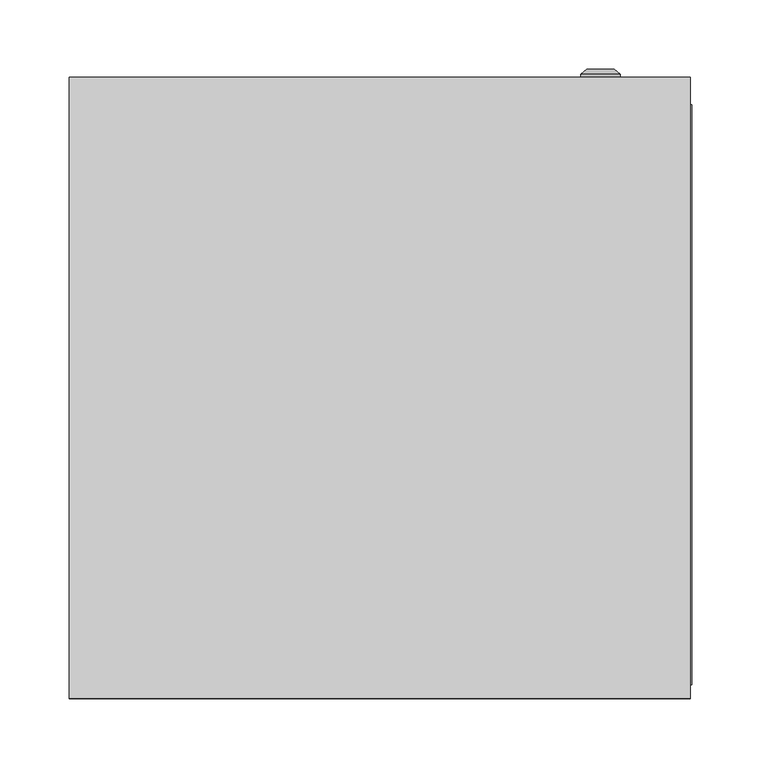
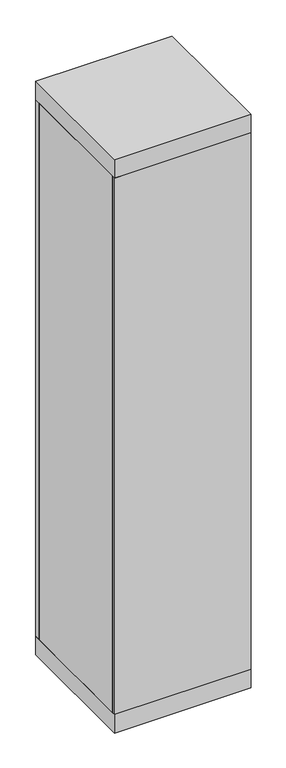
"""IFC4 building model written with IfcOpenShell, lengths in millimetres: proxy geometry, ВРУ-1_IP54 : ВРУ-1_2000х450х450."""

from ifc_helpers import new_model, si_unit, frame, origin, origin_with_axes, place, context, project, spatial, polyline, circle_curve, outline, extrude, source, transform, mapped, element, save
from ifc_brep_helpers import plane_surface, cylinder_surface, revolved_surface, advanced_brep


def electrical_equipment_97246e37(model_context):
    return source(origin(), model_context, "Body", "SolidModel", [
        extrude(outline(polyline([(225.0, 0.0), (-225.0, 0.0), (-225.0, 10.0), (225.0, 10.0), (225.0, 0.0)])), frame((0.0, 0.0, 65.0187804), z_axis=(0.0, 0.0, 1.0), x_axis=(1.0, 0.0, 0.0)), (0.0, 0.0, 1.0), 1869.9812196),
        extrude(outline(polyline([(-180.8707865, 125.9831461), (-140.8707865, 125.9831461), (-140.8707865, 93.1179775), (-143.8707865, 93.1179775), (-143.8707865, 122.9831461), (-177.8707865, 122.9831461), (-177.8707865, 93.1179775), (-180.8707865, 93.1179775), (-180.8707865, 125.9831461)])), frame((0.0, 0.0, 189.6067416), z_axis=(0.0, 0.0, 1.0), x_axis=(1.0, 0.0, 0.0)), (0.0, 0.0, 1.0), 1745.3932584),
        extrude(outline(polyline([(140.8707865, 125.9831461), (180.8707865, 125.9831461), (180.8707865, 93.1179775), (177.8707865, 93.1179775), (177.8707865, 122.9831461), (143.8707865, 122.9831461), (143.8707865, 93.1179775), (140.8707865, 93.1179775), (140.8707865, 125.9831461)])), frame((0.0, 0.0, 189.6067416), z_axis=(0.0, 0.0, 1.0), x_axis=(1.0, 0.0, 0.0)), (0.0, 0.0, 1.0), 1745.3932584),
        extrude(outline(polyline([(-180.8707865, 10.0), (-190.8707865, 10.0), (-190.8707865, 430.0), (-180.8707865, 430.0), (-180.8707865, 10.0)])), frame((0.0, 0.0, 1845.5966059), z_axis=(0.0, 0.0, 1.0), x_axis=(1.0, 0.0, 0.0)), (0.0, 0.0, 1.0), 53.0898876),
        extrude(outline(polyline([(190.8707865, 10.0), (180.8707865, 10.0), (180.8707865, 430.0), (190.8707865, 430.0), (190.8707865, 10.0)])), frame((0.0, 0.0, 1845.5966059), z_axis=(0.0, 0.0, 1.0), x_axis=(1.0, 0.0, 0.0)), (0.0, 0.0, 1.0), 53.0898876),
        extrude(outline(polyline([(-180.8707865, 10.0), (-190.8707865, 10.0), (-190.8707865, 430.0), (-180.8707865, 430.0), (-180.8707865, 10.0)])), frame((0.0, 0.0, 255.5966059), z_axis=(0.0, 0.0, 1.0), x_axis=(1.0, 0.0, 0.0)), (0.0, 0.0, 1.0), 53.0898876),
        extrude(outline(polyline([(190.8707865, 10.0), (180.8707865, 10.0), (180.8707865, 430.0), (190.8707865, 430.0), (190.8707865, 10.0)])), frame((0.0, 0.0, 255.5966059), z_axis=(0.0, 0.0, 1.0), x_axis=(1.0, 0.0, 0.0)), (0.0, 0.0, 1.0), 53.0898876),
        extrude(outline(polyline([(-180.8707865, 10.0), (-190.8707865, 10.0), (-190.8707865, 430.0), (-180.8707865, 430.0), (-180.8707865, 10.0)])), frame((0.0, 0.0, 935.5966059), z_axis=(0.0, 0.0, 1.0), x_axis=(1.0, 0.0, 0.0)), (0.0, 0.0, 1.0), 53.0898876),
        extrude(outline(polyline([(190.8707865, 10.0), (180.8707865, 10.0), (180.8707865, 430.0), (190.8707865, 430.0), (190.8707865, 10.0)])), frame((0.0, 0.0, 935.5966059), z_axis=(0.0, 0.0, 1.0), x_axis=(1.0, 0.0, 0.0)), (0.0, 0.0, 1.0), 53.0898876),
        extrude(outline(polyline([(1935.0, -225.0), (65.0187804, -225.0), (65.0187804, 226.2640449), (1935.0, 226.2640449), (1935.0, -225.0)]), holes=[polyline([(93.3701084, 190.8707865), (93.3701084, -188.3426966), (1892.9861595, -188.3426966), (1892.9861595, 190.8707865), (93.3701084, 190.8707865)])]), frame((0.0, 10.0, 0.0), z_axis=(0.0, 1.0, 0.0), x_axis=(0.0, 0.0, 1.0)), (0.0, 0.0, 1.0), 420.0),
        extrude(outline(polyline([(225.0067809, 450.0), (225.0067809, 0.0), (-225.0, 0.0), (-225.0, 450.0), (225.0067809, 450.0)])), frame((0.0, 0.0, 1935.0), z_axis=(0.0, 0.0, 1.0), x_axis=(1.0, 0.0, 0.0)), (0.0, 0.0, 1.0), 65.0),
        advanced_brep(
        [(145.669873, 450.0, 515.0), (174.330127, 450.0, 515.0), (160.0, 450.0, 515.0), (145.669873, 452.366592, 515.0), (174.330127, 452.366592, 515.0), (150.0, 456.0, 515.0), (170.0, 456.0, 515.0), (158.1080471, 456.0, 515.0), (161.8919529, 456.0, 515.0), (158.1080471, 454.9822294, 515.0), (161.8919529, 454.9822294, 515.0), (160.0, 454.9822294, 515.0)],
        [
            (0, 1, circle_curve(frame((160.0, 450.0, 515.0), z_axis=(0.0, -1.0, 0.0), x_axis=(1.0, 0.0, 0.0)), 14.330127)),
            (1, 2),
            (2, 0),
            (1, 0, circle_curve(frame((160.0, 450.0, 515.0), z_axis=(0.0, -1.0, 0.0), x_axis=(1.0, 0.0, 0.0)), 14.330127)),
            (3, 4, circle_curve(frame((160.0, 452.366592, 515.0), z_axis=(0.0, -1.0, 0.0), x_axis=(1.0, 0.0, 0.0)), 14.330127)),
            (4, 1),
            (0, 3),
            (4, 3, circle_curve(frame((160.0, 452.366592, 515.0), z_axis=(0.0, -1.0, 0.0), x_axis=(1.0, 0.0, 0.0)), 14.330127)),
            (5, 6, circle_curve(frame((160.0, 456.0, 515.0), z_axis=(0.0, -1.0, 0.0), x_axis=(1.0, 0.0, 0.0)), 10.0)),
            (6, 4),
            (3, 5),
            (6, 5, circle_curve(frame((160.0, 456.0, 515.0), z_axis=(0.0, -1.0, 0.0), x_axis=(1.0, 0.0, 0.0)), 10.0)),
            (7, 8, circle_curve(frame((160.0, 456.0, 515.0), z_axis=(0.0, -1.0, 0.0), x_axis=(1.0, 0.0, 0.0)), 1.8919529)),
            (8, 6),
            (5, 7),
            (8, 7, circle_curve(frame((160.0, 456.0, 515.0), z_axis=(0.0, -1.0, 0.0), x_axis=(1.0, 0.0, 0.0)), 1.8919529)),
            (9, 10, circle_curve(frame((160.0, 454.9822294, 515.0), z_axis=(0.0, -1.0, 0.0), x_axis=(1.0, 0.0, 0.0)), 1.8919529)),
            (10, 8),
            (7, 9),
            (10, 9, circle_curve(frame((160.0, 454.9822294, 515.0), z_axis=(0.0, -1.0, 0.0), x_axis=(1.0, 0.0, 0.0)), 1.8919529)),
            (11, 10),
            (9, 11),
        ],
        [
            plane_surface(frame((160.0, 450.0, 515.0), z_axis=(0.0, -1.0, 0.0), x_axis=(1.0, 0.0, 0.0))),
            cylinder_surface(frame((160.0, 463.1348851, 515.0), z_axis=(0.0, 1.0, 0.0), x_axis=(1.0, 0.0, 0.0)), 14.330127),
            revolved_surface(polyline([(174.330127, 452.366592, 515.0), (170.0, 456.0, 515.0)]), (160.0, 463.1348851, 515.0), (0.0, 1.0, 0.0)),
            plane_surface(frame((160.0, 456.0, 515.0), z_axis=(0.0, 1.0, 0.0), x_axis=(1.0, 0.0, 0.0))),
            revolved_surface(polyline([(161.8919529, 456.0, 515.0), (161.8919529, 454.9822294, 515.0)]), (160.0, 463.1348851, 515.0), (0.0, 1.0, 0.0)),
            plane_surface(frame((160.0, 454.9822294, 515.0), z_axis=(0.0, 1.0, 0.0), x_axis=(1.0, 0.0, 0.0))),
        ],
        [
            (0, [[1, 2, 3]]),
            (0, [[4, -3, -2]]),
            (1, [[5, 6, -1, 7]]),
            (1, [[8, -7, -4, -6]]),
            (2, [[9, 10, -5, 11]]),
            (2, [[12, -11, -8, -10]]),
            (3, [[13, 14, -9, 15]]),
            (3, [[16, -15, -12, -14]]),
            (4, [[17, 18, -13, 19]]),
            (4, [[20, -19, -16, -18]]),
            (5, [[21, -17, 22]]),
            (5, [[-22, -20, -21]]),
        ],
    ),
        advanced_brep(
        [(145.669873, 450.0, 1485.0), (174.330127, 450.0, 1485.0), (160.0, 450.0, 1485.0), (145.669873, 452.366592, 1485.0), (174.330127, 452.366592, 1485.0), (150.0, 456.0, 1485.0), (170.0, 456.0, 1485.0), (158.1080471, 456.0, 1485.0), (161.8919529, 456.0, 1485.0), (158.1080471, 454.9822294, 1485.0), (161.8919529, 454.9822294, 1485.0), (160.0, 454.9822294, 1485.0)],
        [
            (0, 1, circle_curve(frame((160.0, 450.0, 1485.0), z_axis=(0.0, -1.0, 0.0), x_axis=(1.0, 0.0, 0.0)), 14.330127)),
            (1, 2),
            (2, 0),
            (1, 0, circle_curve(frame((160.0, 450.0, 1485.0), z_axis=(0.0, -1.0, 0.0), x_axis=(1.0, 0.0, 0.0)), 14.330127)),
            (3, 4, circle_curve(frame((160.0, 452.366592, 1485.0), z_axis=(0.0, -1.0, 0.0), x_axis=(1.0, 0.0, 0.0)), 14.330127)),
            (4, 1),
            (0, 3),
            (4, 3, circle_curve(frame((160.0, 452.366592, 1485.0), z_axis=(0.0, -1.0, 0.0), x_axis=(1.0, 0.0, 0.0)), 14.330127)),
            (5, 6, circle_curve(frame((160.0, 456.0, 1485.0), z_axis=(0.0, -1.0, 0.0), x_axis=(1.0, 0.0, 0.0)), 10.0)),
            (6, 4),
            (3, 5),
            (6, 5, circle_curve(frame((160.0, 456.0, 1485.0), z_axis=(0.0, -1.0, 0.0), x_axis=(1.0, 0.0, 0.0)), 10.0)),
            (7, 8, circle_curve(frame((160.0, 456.0, 1485.0), z_axis=(0.0, -1.0, 0.0), x_axis=(1.0, 0.0, 0.0)), 1.8919529)),
            (8, 6),
            (5, 7),
            (8, 7, circle_curve(frame((160.0, 456.0, 1485.0), z_axis=(0.0, -1.0, 0.0), x_axis=(1.0, 0.0, 0.0)), 1.8919529)),
            (9, 10, circle_curve(frame((160.0, 454.9822294, 1485.0), z_axis=(0.0, -1.0, 0.0), x_axis=(1.0, 0.0, 0.0)), 1.8919529)),
            (10, 8),
            (7, 9),
            (10, 9, circle_curve(frame((160.0, 454.9822294, 1485.0), z_axis=(0.0, -1.0, 0.0), x_axis=(1.0, 0.0, 0.0)), 1.8919529)),
            (11, 10),
            (9, 11),
        ],
        [
            plane_surface(frame((160.0, 450.0, 1485.0), z_axis=(0.0, -1.0, 0.0), x_axis=(1.0, 0.0, 0.0))),
            cylinder_surface(frame((160.0, 463.1348851, 1485.0), z_axis=(0.0, 1.0, 0.0), x_axis=(1.0, 0.0, 0.0)), 14.330127),
            revolved_surface(polyline([(174.330127, 452.366592, 1485.0), (170.0, 456.0, 1485.0)]), (160.0, 463.1348851, 1485.0), (0.0, 1.0, 0.0)),
            plane_surface(frame((160.0, 456.0, 1485.0), z_axis=(0.0, 1.0, 0.0), x_axis=(1.0, 0.0, 0.0))),
            revolved_surface(polyline([(161.8919529, 456.0, 1485.0), (161.8919529, 454.9822294, 1485.0)]), (160.0, 463.1348851, 1485.0), (0.0, 1.0, 0.0)),
            plane_surface(frame((160.0, 454.9822294, 1485.0), z_axis=(0.0, 1.0, 0.0), x_axis=(1.0, 0.0, 0.0))),
        ],
        [
            (0, [[1, 2, 3]]),
            (0, [[4, -3, -2]]),
            (1, [[5, 6, -1, 7]]),
            (1, [[8, -7, -4, -6]]),
            (2, [[9, 10, -5, 11]]),
            (2, [[12, -11, -8, -10]]),
            (3, [[13, 14, -9, 15]]),
            (3, [[16, -15, -12, -14]]),
            (4, [[17, 18, -13, 19]]),
            (4, [[20, -19, -16, -18]]),
            (5, [[21, -17, 22]]),
            (5, [[-22, -20, -21]]),
        ],
    ),
        extrude(outline(polyline([(225.0067809, 450.0), (225.0067809, 0.0), (-225.0, 0.0), (-225.0, 450.0), (225.0067809, 450.0)])), origin_with_axes(), (0.0, 0.0, 1.0), 65.0187804),
        extrude(outline(polyline([(225.0, 430.0), (-225.0, 430.0), (-225.0, 450.0), (225.0, 450.0), (225.0, 430.0)])), frame((0.0, 0.0, 65.0187804), z_axis=(0.0, 0.0, 1.0), x_axis=(1.0, 0.0, 0.0)), (0.0, 0.0, 1.0), 1869.9812196),
    ])


if __name__ == "__main__":
    model = new_model("IFC4")
    model_context = context("Model", 3, world=origin())
    ifc_project = project(units=[si_unit("LENGTHUNIT", "METRE", prefix="MILLI")], contexts=[model_context])
    site = spatial("IfcSite", under=ifc_project)
    building = spatial("IfcBuilding", under=site)
    placement = place(None, origin())
    electrical_equipment_shape = electrical_equipment_97246e37(model_context)
    element("IfcBuildingElementProxy", 1, Name="ВРУ-1_IP54 : ВРУ-1_2000х450х450", ObjectType="ВРУ-1_IP54 : ВРУ-1_2000х450х450", at=placement, inside=building, context=model_context, shape_type="MappedRepresentation", body=[
        mapped(electrical_equipment_shape, transform((0.0, 0.0, 0.0), x_axis=(1.0, 0.0, 0.0), y_axis=(0.0, 1.0, 0.0), z_axis=(0.0, 0.0, 1.0))),
    ])
    save(model, "model.ifc")
